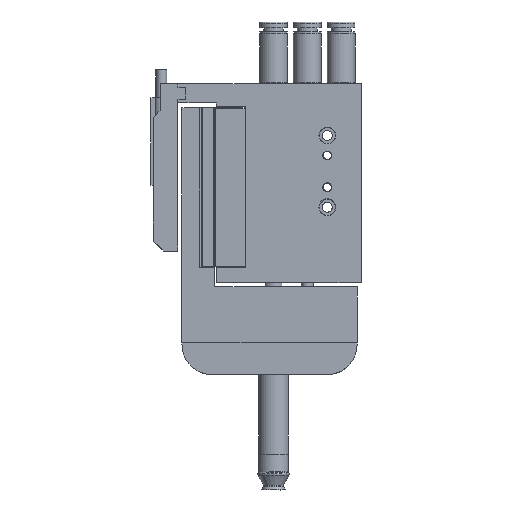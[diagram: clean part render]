
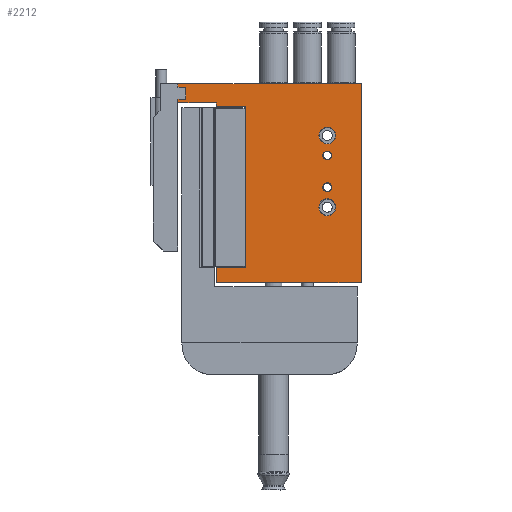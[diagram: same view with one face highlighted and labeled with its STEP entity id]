
A CAD part, left-side view. The second image highlights one B-rep face of the part: STEP entity #2212.
In plain terms, the highlighted planar face has unit normal (-1, 0, 0).
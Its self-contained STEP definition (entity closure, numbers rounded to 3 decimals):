
#350=LINE('',#10713,#890);
#356=LINE('',#10730,#896);
#374=LINE('',#10786,#914);
#377=LINE('',#10800,#917);
#378=LINE('',#10803,#918);
#379=LINE('',#10805,#919);
#380=LINE('',#10806,#920);
#381=LINE('',#10808,#921);
#382=LINE('',#10810,#922);
#383=LINE('',#10811,#923);
#384=LINE('',#10813,#924);
#385=LINE('',#10815,#925);
#386=LINE('',#10816,#926);
#387=LINE('',#10818,#927);
#890=VECTOR('',#8635,1.);
#896=VECTOR('',#8647,1.);
#914=VECTOR('',#8695,1.);
#917=VECTOR('',#8712,1.);
#918=VECTOR('',#8713,1.);
#919=VECTOR('',#8714,1.);
#920=VECTOR('',#8715,1.);
#921=VECTOR('',#8716,1.);
#922=VECTOR('',#8717,1.);
#923=VECTOR('',#8718,1.);
#924=VECTOR('',#8719,1.);
#925=VECTOR('',#8720,1.);
#926=VECTOR('',#8721,1.);
#927=VECTOR('',#8722,1.);
#1869=PLANE('',#7787);
#2212=ADVANCED_FACE('',(#2846,#2847,#2848,#2849,#2850),#1869,.T.);
#2846=FACE_BOUND('',#3326,.T.);
#2847=FACE_BOUND('',#3327,.T.);
#2848=FACE_BOUND('',#3328,.T.);
#2849=FACE_BOUND('',#3329,.T.);
#2850=FACE_BOUND('',#3330,.T.);
#3326=EDGE_LOOP('',(#4089,#4090,#4091,#4092,#4093,#4094,#4095,#4096,#4097,
#4098,#4099,#4100,#4101,#4102));
#3327=EDGE_LOOP('',(#4103));
#3328=EDGE_LOOP('',(#4104));
#3329=EDGE_LOOP('',(#4105));
#3330=EDGE_LOOP('',(#4106));
#4089=ORIENTED_EDGE('',*,*,#6474,.F.);
#4090=ORIENTED_EDGE('',*,*,#6475,.F.);
#4091=ORIENTED_EDGE('',*,*,#6476,.F.);
#4092=ORIENTED_EDGE('',*,*,#6441,.T.);
#4093=ORIENTED_EDGE('',*,*,#6477,.T.);
#4094=ORIENTED_EDGE('',*,*,#6478,.F.);
#4095=ORIENTED_EDGE('',*,*,#6479,.F.);
#4096=ORIENTED_EDGE('',*,*,#6433,.T.);
#4097=ORIENTED_EDGE('',*,*,#6480,.T.);
#4098=ORIENTED_EDGE('',*,*,#6481,.F.);
#4099=ORIENTED_EDGE('',*,*,#6482,.F.);
#4100=ORIENTED_EDGE('',*,*,#6467,.F.);
#4101=ORIENTED_EDGE('',*,*,#6483,.T.);
#4102=ORIENTED_EDGE('',*,*,#6484,.T.);
#4103=ORIENTED_EDGE('',*,*,#6485,.F.);
#4104=ORIENTED_EDGE('',*,*,#6486,.F.);
#4105=ORIENTED_EDGE('',*,*,#6487,.T.);
#4106=ORIENTED_EDGE('',*,*,#6488,.T.);
#5774=VERTEX_POINT('',#10708);
#5776=VERTEX_POINT('',#10712);
#5782=VERTEX_POINT('',#10725);
#5784=VERTEX_POINT('',#10729);
#5805=VERTEX_POINT('',#10781);
#5807=VERTEX_POINT('',#10785);
#5812=VERTEX_POINT('',#10801);
#5813=VERTEX_POINT('',#10802);
#5814=VERTEX_POINT('',#10804);
#5815=VERTEX_POINT('',#10807);
#5816=VERTEX_POINT('',#10809);
#5817=VERTEX_POINT('',#10812);
#5818=VERTEX_POINT('',#10814);
#5819=VERTEX_POINT('',#10817);
#5820=VERTEX_POINT('',#10820);
#5821=VERTEX_POINT('',#10822);
#5822=VERTEX_POINT('',#10824);
#5823=VERTEX_POINT('',#10826);
#6433=EDGE_CURVE('',#5774,#5776,#350,.T.);
#6441=EDGE_CURVE('',#5782,#5784,#356,.T.);
#6467=EDGE_CURVE('',#5807,#5805,#374,.T.);
#6474=EDGE_CURVE('',#5812,#5813,#377,.T.);
#6475=EDGE_CURVE('',#5814,#5812,#378,.T.);
#6476=EDGE_CURVE('',#5782,#5814,#379,.T.);
#6477=EDGE_CURVE('',#5784,#5815,#380,.T.);
#6478=EDGE_CURVE('',#5816,#5815,#381,.T.);
#6479=EDGE_CURVE('',#5774,#5816,#382,.T.);
#6480=EDGE_CURVE('',#5776,#5817,#383,.T.);
#6481=EDGE_CURVE('',#5818,#5817,#384,.T.);
#6482=EDGE_CURVE('',#5805,#5818,#385,.T.);
#6483=EDGE_CURVE('',#5807,#5819,#386,.T.);
#6484=EDGE_CURVE('',#5819,#5813,#387,.T.);
#6485=EDGE_CURVE('',#5820,#5820,#7330,.T.);
#6486=EDGE_CURVE('',#5821,#5821,#7331,.T.);
#6487=EDGE_CURVE('',#5822,#5822,#7332,.T.);
#6488=EDGE_CURVE('',#5823,#5823,#7333,.T.);
#7330=CIRCLE('',#7783,2.1);
#7331=CIRCLE('',#7784,2.1);
#7332=CIRCLE('',#7785,1.1);
#7333=CIRCLE('',#7786,1.1);
#7783=AXIS2_PLACEMENT_3D('',#10819,#8723,#8724);
#7784=AXIS2_PLACEMENT_3D('',#10821,#8725,#8726);
#7785=AXIS2_PLACEMENT_3D('',#10823,#8727,#8728);
#7786=AXIS2_PLACEMENT_3D('',#10825,#8729,#8730);
#7787=AXIS2_PLACEMENT_3D('',#10827,#8731,#8732);
#8635=DIRECTION('',(0.,0.,1.));
#8647=DIRECTION('',(0.,0.,-1.));
#8695=DIRECTION('',(0.,0.,1.));
#8712=DIRECTION('',(0.,1.,0.));
#8713=DIRECTION('',(0.,0.,1.));
#8714=DIRECTION('',(0.,1.,0.));
#8715=DIRECTION('',(0.,1.,0.));
#8716=DIRECTION('',(0.,0.,1.));
#8717=DIRECTION('',(0.,1.,0.));
#8718=DIRECTION('',(0.,1.,0.));
#8719=DIRECTION('',(0.,0.,1.));
#8720=DIRECTION('',(0.,1.,0.));
#8721=DIRECTION('',(0.,1.,0.));
#8722=DIRECTION('',(0.,0.,-1.));
#8723=DIRECTION('',(-1.,0.,0.));
#8724=DIRECTION('',(0.,1.,0.));
#8725=DIRECTION('',(-1.,0.,0.));
#8726=DIRECTION('',(0.,1.,0.));
#8727=DIRECTION('',(1.,0.,0.));
#8728=DIRECTION('',(0.,-1.,0.));
#8729=DIRECTION('',(1.,0.,0.));
#8730=DIRECTION('',(0.,-1.,0.));
#8731=DIRECTION('',(-1.,0.,0.));
#8732=DIRECTION('',(0.,-1.,0.));
#10708=CARTESIAN_POINT('',(-19.955,34.655,3.3));
#10712=CARTESIAN_POINT('',(-19.955,34.655,53.3));
#10713=CARTESIAN_POINT('',(-19.955,34.655,38.3));
#10725=CARTESIAN_POINT('',(-19.955,63.655,47.5));
#10729=CARTESIAN_POINT('',(-19.955,63.655,7.1));
#10730=CARTESIAN_POINT('',(-19.955,63.655,23.3));
#10781=CARTESIAN_POINT('',(-19.955,78.655,52.4));
#10785=CARTESIAN_POINT('',(-19.955,78.655,49.4));
#10786=CARTESIAN_POINT('',(-19.955,78.655,38.3));
#10800=CARTESIAN_POINT('',(-19.955,34.655,48.5));
#10801=CARTESIAN_POINT('',(-19.955,71.055,48.5));
#10802=CARTESIAN_POINT('',(-19.955,80.655,48.5));
#10803=CARTESIAN_POINT('',(-19.955,71.055,5.1));
#10804=CARTESIAN_POINT('',(-19.955,71.055,47.5));
#10805=CARTESIAN_POINT('',(-19.955,34.655,47.5));
#10806=CARTESIAN_POINT('',(-19.955,67.405,7.1));
#10807=CARTESIAN_POINT('',(-19.955,71.055,7.1));
#10808=CARTESIAN_POINT('',(-19.955,71.055,38.3));
#10809=CARTESIAN_POINT('',(-19.955,71.055,3.3));
#10810=CARTESIAN_POINT('',(-19.955,34.655,3.3));
#10811=CARTESIAN_POINT('',(-19.955,34.655,53.3));
#10812=CARTESIAN_POINT('',(-19.955,80.655,53.3));
#10813=CARTESIAN_POINT('',(-19.955,80.655,38.3));
#10814=CARTESIAN_POINT('',(-19.955,80.655,52.4));
#10815=CARTESIAN_POINT('',(-19.955,34.655,52.4));
#10816=CARTESIAN_POINT('',(-19.955,79.655,49.4));
#10817=CARTESIAN_POINT('',(-19.955,80.655,49.4));
#10818=CARTESIAN_POINT('',(-19.955,80.655,38.3));
#10819=CARTESIAN_POINT('',(-19.955,43.155,22.3));
#10820=CARTESIAN_POINT('',(-19.955,45.255,22.3));
#10821=CARTESIAN_POINT('',(-19.955,43.155,40.3));
#10822=CARTESIAN_POINT('',(-19.955,45.255,40.3));
#10823=CARTESIAN_POINT('',(-19.955,43.155,35.3));
#10824=CARTESIAN_POINT('',(-19.955,42.055,35.3));
#10825=CARTESIAN_POINT('',(-19.955,43.155,27.3));
#10826=CARTESIAN_POINT('',(-19.955,42.055,27.3));
#10827=CARTESIAN_POINT('',(-19.955,34.655,38.3));
